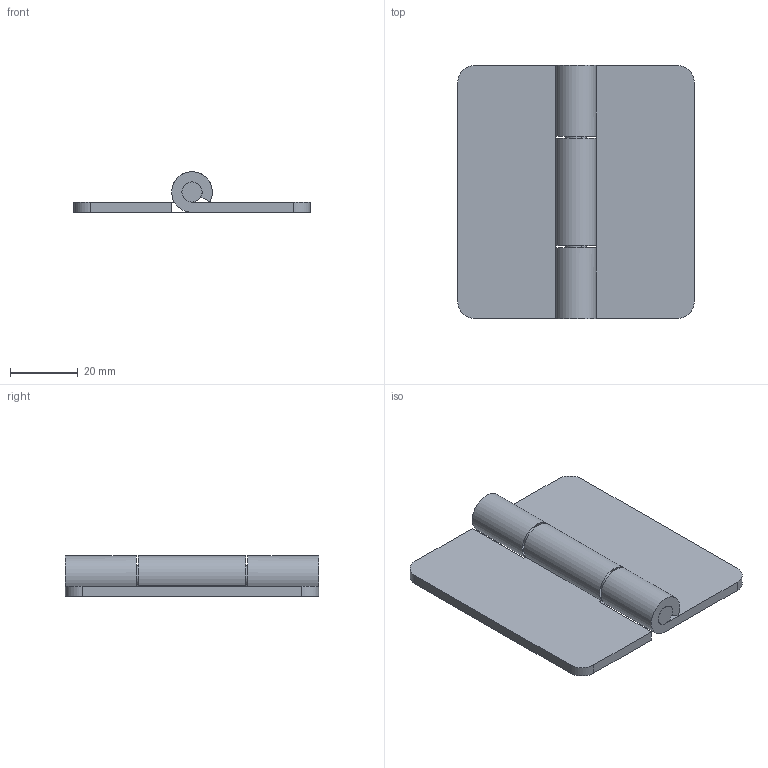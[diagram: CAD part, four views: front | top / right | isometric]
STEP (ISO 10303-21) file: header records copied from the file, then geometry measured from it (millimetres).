
FILE_DESCRIPTION(/* description */ (''),/* implementation_level */ '2;1');
FILE_NAME(/* name */ 'JL011-75',/* time_stamp */ '2024-10-12T15:32:30+08:00',/* author */ (''),/* organization */ (''),/* preprocessor_version */ 'ST-DEVELOPER v19.2',/* originating_system */ 'Rhino 8.5',/* authorisation */ '');
FILE_SCHEMA (('CONFIG_CONTROL_DESIGN'));
Length unit declared in the file: millimetre
Products named in the file (1): Document
Bounding box: 70 x 75 x 12 mm (x, y, z)
Volume: 2120.6 mm3; surface area: 15642.9 mm2
Topology: 1 solids, 3 shells, 27 faces, 92 edges, 68 vertices
Faces by surface type: plane 15, cylinder 12
Entity records: 1080 total; most frequent: CARTESIAN_POINT 311, ORIENTED_EDGE 144, DIRECTION 94, EDGE_CURVE 92, VERTEX_POINT 68, AXIS2_PLACEMENT_3D 59, B_SPLINE_CURVE_WITH_KNOTS 51, TRIMMED_CURVE 32
